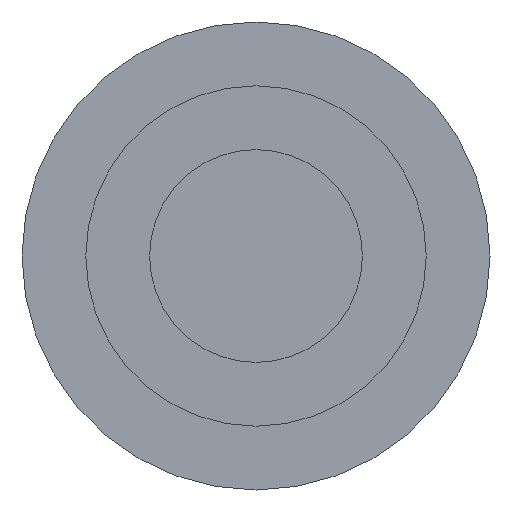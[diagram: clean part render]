
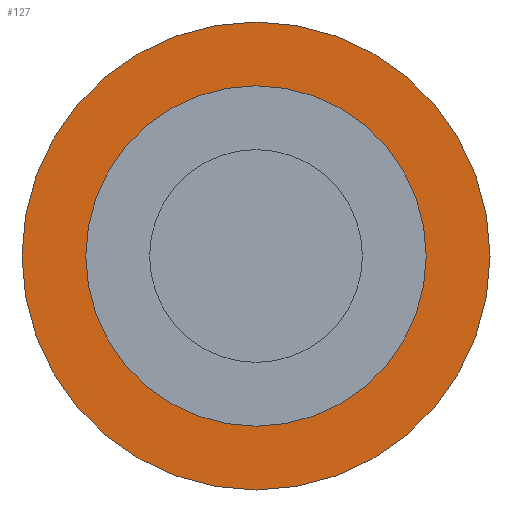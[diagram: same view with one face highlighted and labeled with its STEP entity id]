
A CAD part, front view. The second image highlights one B-rep face of the part: STEP entity #127.
In plain terms, the highlighted planar face has unit normal (0, -1, 0).
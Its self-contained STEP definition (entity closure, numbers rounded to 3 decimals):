
#44 = VERTEX_POINT('',#45);
#45 = CARTESIAN_POINT('',(70.,65.2,-223.));
#54 = CYLINDRICAL_SURFACE('',#55,11.);
#55 = AXIS2_PLACEMENT_3D('',#56,#57,#58);
#56 = CARTESIAN_POINT('',(59.,65.2,-223.));
#57 = DIRECTION('',(0.,-1.,-0.));
#58 = DIRECTION('',(1.,0.,0.));
#101 = EDGE_CURVE('',#44,#44,#102,.T.);
#102 = SURFACE_CURVE('',#103,(#108,#115),.PCURVE_S1.);
#103 = CIRCLE('',#104,11.);
#104 = AXIS2_PLACEMENT_3D('',#105,#106,#107);
#105 = CARTESIAN_POINT('',(59.,65.2,-223.));
#106 = DIRECTION('',(-0.,1.,0.));
#107 = DIRECTION('',(1.,0.,0.));
#108 = PCURVE('',#54,#109);
#109 = DEFINITIONAL_REPRESENTATION('',(#110),#114);
#110 = LINE('',#111,#112);
#111 = CARTESIAN_POINT('',(-0.,0.));
#112 = VECTOR('',#113,1.);
#113 = DIRECTION('',(-1.,0.));
#114 = ( GEOMETRIC_REPRESENTATION_CONTEXT(2) 
PARAMETRIC_REPRESENTATION_CONTEXT() REPRESENTATION_CONTEXT('2D SPACE',''
  ) );
#115 = PCURVE('',#116,#121);
#116 = PLANE('',#117);
#117 = AXIS2_PLACEMENT_3D('',#118,#119,#120);
#118 = CARTESIAN_POINT('',(59.,65.2,-223.));
#119 = DIRECTION('',(0.,1.,0.));
#120 = DIRECTION('',(0.,-0.,1.));
#121 = DEFINITIONAL_REPRESENTATION('',(#122),#126);
#122 = CIRCLE('',#123,11.);
#123 = AXIS2_PLACEMENT_2D('',#124,#125);
#124 = CARTESIAN_POINT('',(0.,0.));
#125 = DIRECTION('',(0.,1.));
#126 = ( GEOMETRIC_REPRESENTATION_CONTEXT(2) 
PARAMETRIC_REPRESENTATION_CONTEXT() REPRESENTATION_CONTEXT('2D SPACE',''
  ) );
#127 = ADVANCED_FACE('',(#128,#131),#116,.F.);
#128 = FACE_BOUND('',#129,.F.);
#129 = EDGE_LOOP('',(#130));
#130 = ORIENTED_EDGE('',*,*,#101,.T.);
#131 = FACE_BOUND('',#132,.F.);
#132 = EDGE_LOOP('',(#133));
#133 = ORIENTED_EDGE('',*,*,#134,.F.);
#134 = EDGE_CURVE('',#135,#135,#137,.T.);
#135 = VERTEX_POINT('',#136);
#136 = CARTESIAN_POINT('',(63.,65.2,-223.));
#137 = SURFACE_CURVE('',#138,(#143,#150),.PCURVE_S1.);
#138 = CIRCLE('',#139,4.);
#139 = AXIS2_PLACEMENT_3D('',#140,#141,#142);
#140 = CARTESIAN_POINT('',(59.,65.2,-223.));
#141 = DIRECTION('',(-0.,1.,0.));
#142 = DIRECTION('',(1.,0.,0.));
#143 = PCURVE('',#116,#144);
#144 = DEFINITIONAL_REPRESENTATION('',(#145),#149);
#145 = CIRCLE('',#146,4.);
#146 = AXIS2_PLACEMENT_2D('',#147,#148);
#147 = CARTESIAN_POINT('',(0.,0.));
#148 = DIRECTION('',(0.,1.));
#149 = ( GEOMETRIC_REPRESENTATION_CONTEXT(2) 
PARAMETRIC_REPRESENTATION_CONTEXT() REPRESENTATION_CONTEXT('2D SPACE',''
  ) );
#150 = PCURVE('',#151,#156);
#151 = CYLINDRICAL_SURFACE('',#152,4.);
#152 = AXIS2_PLACEMENT_3D('',#153,#154,#155);
#153 = CARTESIAN_POINT('',(59.,61.2,-223.));
#154 = DIRECTION('',(0.,-1.,-0.));
#155 = DIRECTION('',(1.,0.,0.));
#156 = DEFINITIONAL_REPRESENTATION('',(#157),#161);
#157 = LINE('',#158,#159);
#158 = CARTESIAN_POINT('',(-0.,-4.));
#159 = VECTOR('',#160,1.);
#160 = DIRECTION('',(-1.,0.));
#161 = ( GEOMETRIC_REPRESENTATION_CONTEXT(2) 
PARAMETRIC_REPRESENTATION_CONTEXT() REPRESENTATION_CONTEXT('2D SPACE',''
  ) );
